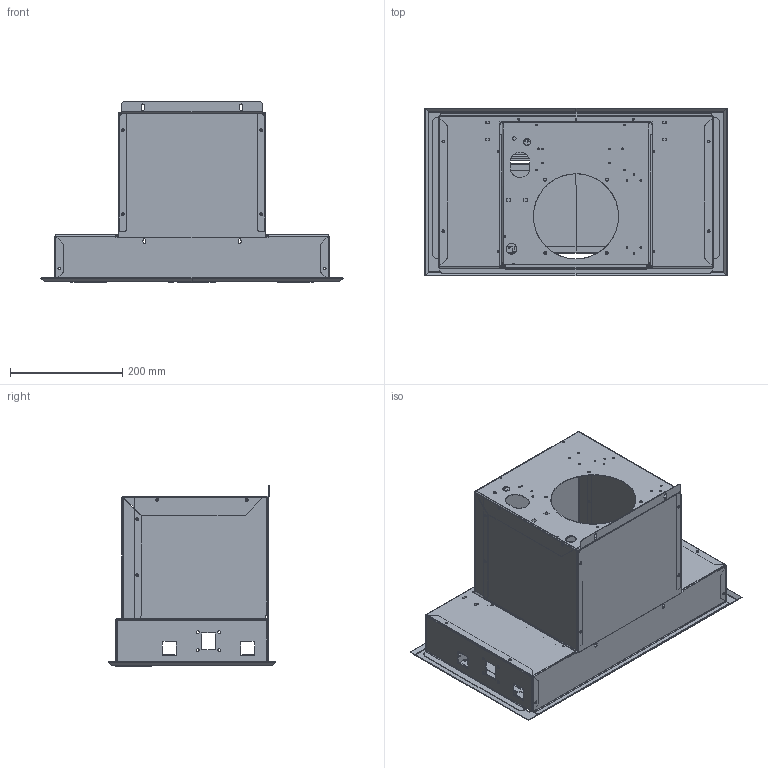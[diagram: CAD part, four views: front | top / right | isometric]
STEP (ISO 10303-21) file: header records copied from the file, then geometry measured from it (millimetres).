
FILE_DESCRIPTION(('CATIA V5 STEP Exchange'),'2;1');
FILE_NAME('K:\DISEGNI\SMEG\CAPPE\KSEG58PXE\KSEG58PXE.stp','2017-03-08T09:42:55+00:00',('none'),('none'),'CATIA Version 5-6 Release 2014 SP6','CATIA V5 STEP AP203','none');
FILE_SCHEMA(('CONFIG_CONTROL_DESIGN'));
Products named in the file (4): KSEG58PXE; Involucro3parti; Cornice inox biadesivo; PannelloAspirazione
Assembly tree (14 placements, depth 3):
  KSEG58PXE
    Involucro3parti
      #65
      #6259
      #10936
    Cornice inox biadesivo
      #15634
    PannelloAspirazione
      #50664
    #55689  x2
    #56508
    #58607
    #60706
    #73883
Bounding box: 539.59 x 299.59 x 322.5 mm (x, y, z)
Volume: 674193.3 mm3; surface area: 1506642.4 mm2
Topology: 22 solids, 22 shells, 2421 faces, 6313 edges, 3938 vertices
Faces by surface type: plane 1300, cylinder 999, bspline 60, torus 24, sphere 24, cone 12, extrusion 2
Entity records: 73868 total; most frequent: CARTESIAN_POINT 17214, ORIENTED_EDGE 12466, DIRECTION 9854, EDGE_CURVE 6233, VECTOR 4081, LINE 4079, VERTEX_POINT 3902, AXIS2_PLACEMENT_3D 3624
